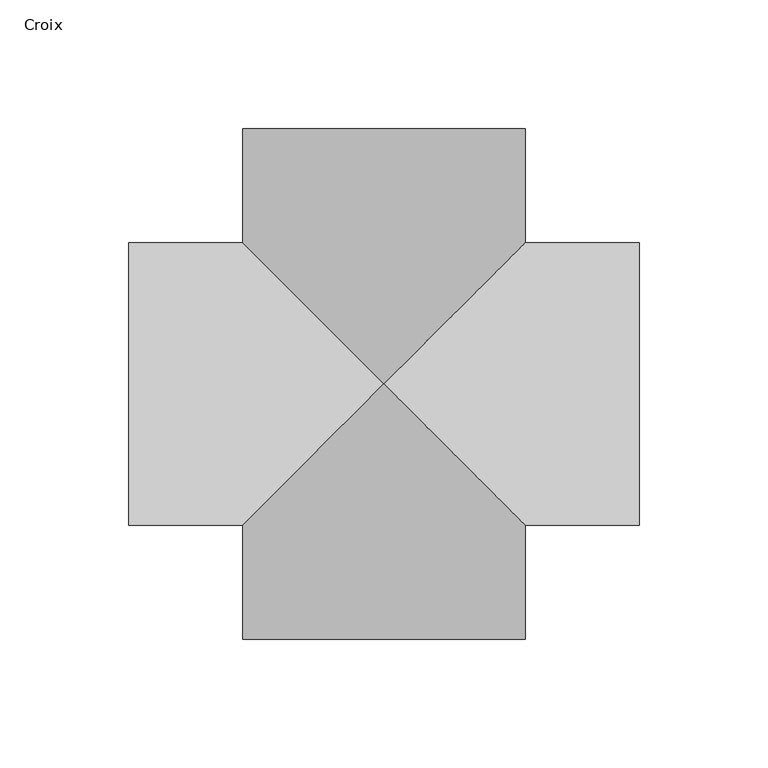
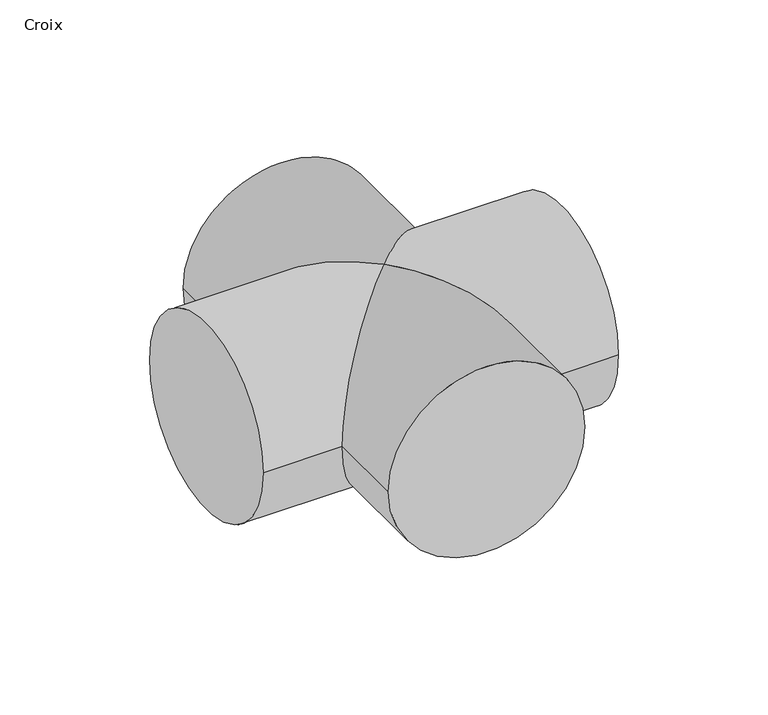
"""IFC4 building model written with IfcOpenShell, lengths in millimetres: pipe fitting geometry, 01051068 : Croix."""

import ifcopenshell
import ifcopenshell.guid

model = None  # the IFC model being written
_history = None  # IfcOwnerHistory: only IFC2X3 demands one
_inside = {}  # id of a spatial element -> (the spatial element, [elements in it])
_under = {}  # id of a project, library or spatial element -> (it, [spatial elements below it])
_declared = {}  # id of a project -> (the project, [libraries it declares])
_typed = {}  # id of a type object -> (the type object, [elements of that type])
_made_of = {}  # id of a material, layer set ... -> (it, [elements and type objects made of it])


def new_model(schema):
    """Start an empty IFC model of exactly this schema.

    Asked for "IFC4X3", IfcOpenShell would pick the latest addendum, in which some entities
    have other attributes; the version numbers below select the first issue.
    IFC2X3 requires an IfcOwnerHistory on every rooted entity: one is made here for all.
    """
    global model, _history
    if schema == "IFC4X3":
        model = ifcopenshell.file(schema_version=(4, 3, 0, 0))
    else:
        model = ifcopenshell.file(schema=schema)
    _inside.clear()
    _under.clear()
    _declared.clear()
    _typed.clear()
    _made_of.clear()
    _history = None
    if model.schema == "IFC2X3":
        org = make("IfcOrganization", Name="unknown")
        user = make(
            "IfcPersonAndOrganization",
            ThePerson=make("IfcPerson", FamilyName="unknown"),
            TheOrganization=org,
        )
        app = make(
            "IfcApplication",
            ApplicationDeveloper=org,
            Version="unknown",
            ApplicationFullName="unknown",
            ApplicationIdentifier="unknown",
        )
        _history = make(
            "IfcOwnerHistory",
            OwningUser=user,
            OwningApplication=app,
            ChangeAction="ADDED",
            CreationDate=0,
        )
    return model


def make(cls, **values):
    """One entity of the class cls with the attributes given. An attribute that is None is left unset."""
    return model.create_entity(
        cls, **{name: value for name, value in values.items() if value is not None}
    )


def rooted(cls, **values):
    """An entity with a GlobalId (a new one), such as an element, a storey or a relation."""
    return make(cls, GlobalId=ifcopenshell.guid.new(), OwnerHistory=_history, **values)


def si_unit(unit_type, name, prefix=None):
    """IfcSIUnit, for example si_unit("LENGTHUNIT", "METRE", prefix="MILLI")."""
    return make("IfcSIUnit", UnitType=unit_type, Prefix=prefix, Name=name)


def assignment(units):
    """IfcUnitAssignment: the units of a project."""
    return None if units is None else make("IfcUnitAssignment", Units=units)


def point(xyz):
    """IfcCartesianPoint."""
    return None if xyz is None else make("IfcCartesianPoint", Coordinates=xyz)


def direction(xyz):
    """IfcDirection."""
    return None if xyz is None else make("IfcDirection", DirectionRatios=xyz)


def frame(location, z_axis=None, x_axis=None):
    """IfcAxis2Placement3D, a coordinate frame: its origin and axes. An axis left out is left unset."""
    return make(
        "IfcAxis2Placement3D",
        Location=point(location),
        Axis=direction(z_axis),
        RefDirection=direction(x_axis),
    )


def origin():
    """The frame at (0, 0, 0) with its axes left unset."""
    return frame((0.0, 0.0, 0.0))


def place(relative_to, where):
    """IfcLocalPlacement: puts the frame where relative to a parent placement (None: the world)."""
    return make(
        "IfcLocalPlacement", PlacementRelTo=relative_to, RelativePlacement=where
    )


def context(
    kind, dimensions, precision=None, world=None, true_north=None, identifier=None
):
    """IfcGeometricRepresentationContext, for example the 3D "Model" context."""
    return make(
        "IfcGeometricRepresentationContext",
        ContextIdentifier=identifier,
        ContextType=kind,
        CoordinateSpaceDimension=dimensions,
        Precision=precision,
        WorldCoordinateSystem=world,
        TrueNorth=true_north,
    )


def project(units=None, contexts=None):
    """IfcProject with its units and contexts."""
    return rooted(
        "IfcProject",
        Name="project",
        RepresentationContexts=contexts,
        UnitsInContext=assignment(units),
    )


def spatial(cls, under=None, at=None, **own):
    """A site, building, storey or space (cls), placed at a placement, below another one or the project."""
    s = rooted(cls, ObjectPlacement=at, **own)
    if under is not None:
        _under.setdefault(under.id(), (under, []))[1].append(s)
    return s


def circle_curve(where, radius):
    """IfcCircle in the frame where."""
    return make("IfcCircle", Position=where, Radius=radius)


def ellipse_curve(where, semi_axis1, semi_axis2):
    """IfcEllipse in the frame where."""
    return make(
        "IfcEllipse", Position=where, SemiAxis1=semi_axis1, SemiAxis2=semi_axis2
    )


def shape(context_of_items, identifier, shape_type, items):
    """IfcShapeRepresentation: the items that make up one representation, for example the "Body"."""
    return make(
        "IfcShapeRepresentation",
        ContextOfItems=context_of_items,
        RepresentationIdentifier=identifier,
        RepresentationType=shape_type,
        Items=items,
    )


def source(mapping_origin, context_of_items, identifier, shape_type, items):
    """IfcRepresentationMap: a shape defined once, which mapped items show again and again."""
    return make(
        "IfcRepresentationMap",
        MappingOrigin=mapping_origin,
        MappedRepresentation=shape(context_of_items, identifier, shape_type, items),
    )


def transform(
    local_origin,
    x_axis=None,
    y_axis=None,
    z_axis=None,
    scale=None,
    scale2=None,
    scale3=None,
    uniform=True,
):
    """IfcCartesianTransformationOperator3D, or its non-uniform kind. x_axis, y_axis, z_axis: its Axis1, 2, 3."""
    if uniform:
        return make(
            "IfcCartesianTransformationOperator3D",
            Axis1=direction(x_axis),
            Axis2=direction(y_axis),
            LocalOrigin=point(local_origin),
            Scale=scale,
            Axis3=direction(z_axis),
        )
    return make(
        "IfcCartesianTransformationOperator3DnonUniform",
        Axis1=direction(x_axis),
        Axis2=direction(y_axis),
        LocalOrigin=point(local_origin),
        Scale=scale,
        Axis3=direction(z_axis),
        Scale2=scale2,
        Scale3=scale3,
    )


def mapped(mapping_source, mapping_target):
    """IfcMappedItem: shows the shape of a source again, moved by a transform."""
    return make(
        "IfcMappedItem", MappingSource=mapping_source, MappingTarget=mapping_target
    )


def made_of(thing, what):
    """Note that an element or type object is made of a material, layer set ...; save() writes the relation."""
    if what is not None:
        _made_of.setdefault(what.id(), (what, []))[1].append(thing)
    return thing


def element(
    cls,
    number,
    at=None,
    inside=None,
    cuts=None,
    type_object=None,
    material=None,
    context=None,
    identifier="Body",
    shape_type=None,
    held_by="IfcProductDefinitionShape",
    body=None,
    shapes=None,
    **own,
):
    """One element of the class cls, such as IfcWall. Its Tag is "e" and its number.

    at: its placement. inside: the storey or other place that contains it. cuts: it is an
    opening in that element (IfcRelVoidsElement). A single representation is given by context,
    identifier, shape_type and body (its items); several are given by shapes. held_by: the class
    of the entity that holds the representations. save() writes the other relations.
    """
    e = rooted(cls, Tag="e%d" % number, ObjectPlacement=at, **own)
    if body is not None:
        shapes = [shape(context, identifier, shape_type, body)]
    if shapes is not None:
        e.Representation = make(held_by, Representations=shapes)
    if inside is not None:
        _inside.setdefault(inside.id(), (inside, []))[1].append(e)
    if cuts is not None:
        rooted(
            "IfcRelVoidsElement", RelatingBuildingElement=cuts, RelatedOpeningElement=e
        )
    if type_object is not None:
        _typed.setdefault(type_object.id(), (type_object, []))[1].append(e)
    return made_of(e, material)


def aggregate(whole, parts):
    """IfcRelAggregates: a whole, such as a stair, and the parts it consists of."""
    return rooted("IfcRelAggregates", RelatingObject=whole, RelatedObjects=parts)


def save(model, path):
    """Write the relations noted so far, then the file.

    IfcRelAggregates (storeys below a building ...), IfcRelContainedInSpatialStructure (elements
    in a storey), IfcRelDefinesByType, IfcRelAssociatesMaterial and IfcRelDeclares: one each for
    every whole, place, type object, material and project.
    """
    for whole, parts in _under.values():
        aggregate(whole, parts)
    for where, things in _inside.values():
        rooted(
            "IfcRelContainedInSpatialStructure",
            RelatedElements=things,
            RelatingStructure=where,
        )
    for kind, things in _typed.values():
        rooted("IfcRelDefinesByType", RelatedObjects=things, RelatingType=kind)
    for what, things in _made_of.values():
        rooted("IfcRelAssociatesMaterial", RelatedObjects=things, RelatingMaterial=what)
    for by, libraries in _declared.values():
        rooted("IfcRelDeclares", RelatingContext=by, RelatedDefinitions=libraries)
    model.write(path)


def plane_surface(at):
    """IfcPlane: the flat surface through the origin of the frame at, square to its z axis."""
    return make("IfcPlane", Position=at)


def cylinder_surface(at, radius):
    """IfcCylindricalSurface: all points at the distance radius from the z axis of the frame at."""
    return make("IfcCylindricalSurface", Position=at, Radius=radius)


def advanced_brep(points, edges, surfaces, faces):
    """IfcAdvancedBrep: a solid bounded by faces that lie on surfaces and meet in shared edges.

    An edge is (start, end): straight between two places in points (the first is 0);
    or (start, end, curve); or (start, end, curve, False) where it runs against its curve.
    A face is (place in surfaces, loops), or (place, loops, False) where it looks against
    its surface's normal. A loop lists edges by number (the first is 1), with a minus sign
    where the edge is run from its end to its start. The first loop is the outer one.
    """
    corners = [point(p) for p in points]
    vertices = [make("IfcVertexPoint", VertexGeometry=c) for c in corners]
    made = []
    for start, end, *more in edges:
        made.append(
            make(
                "IfcEdgeCurve",
                EdgeStart=vertices[start],
                EdgeEnd=vertices[end],
                EdgeGeometry=more[0] if more else make("IfcPolyline", Points=[corners[start], corners[end]]),
                SameSense=more[1] if len(more) > 1 else True,
            )
        )
    hull = []
    for where, loops, *sense in faces:
        bounds = []
        for j, loop in enumerate(loops):
            ring = [make("IfcOrientedEdge", EdgeElement=made[abs(k) - 1], Orientation=k > 0) for k in loop]
            bounds.append(
                make(
                    "IfcFaceOuterBound" if j == 0 else "IfcFaceBound",
                    Bound=make("IfcEdgeLoop", EdgeList=ring),
                    Orientation=True,
                )
            )
        hull.append(make("IfcAdvancedFace", Bounds=bounds, FaceSurface=surfaces[where], SameSense=sense[0] if sense else True))
    return make("IfcAdvancedBrep", Outer=make("IfcClosedShell", CfsFaces=hull))


def croix_105303ef(model_context):
    return source(origin(), model_context, "Body", "AdvancedBrep", [
        advanced_brep(
        [(-54.75, 99.0, 0.0), (54.75, 99.0, 0.0), (-54.75, -99.0, 0.0), (54.75, -99.0, 0.0), (-54.75, 54.75, 0.0), (0.0, 0.0, 54.75), (54.75, 54.75, 0.0), (54.75, -54.75, 0.0), (-54.75, -54.75, 0.0), (0.0, 0.0, -54.75), (99.0, 54.75, 0.0), (99.0, -54.75, 0.0), (-99.0, 54.75, 0.0), (-99.0, -54.75, 0.0)],
        [
            (0, 1, circle_curve(frame((0.0, 99.0, 0.0), z_axis=(0.0, 1.0, 0.0), x_axis=(1.0, 0.0, 0.0)), 54.75)),
            (1, 0, circle_curve(frame((0.0, 99.0, 0.0), z_axis=(0.0, 1.0, 0.0), x_axis=(1.0, 0.0, 0.0)), 54.75)),
            (2, 3, circle_curve(frame((0.0, -99.0, 0.0), z_axis=(0.0, -1.0, 0.0), x_axis=(1.0, 0.0, 0.0)), 54.75)),
            (3, 2, circle_curve(frame((0.0, -99.0, 0.0), z_axis=(0.0, -1.0, 0.0), x_axis=(1.0, 0.0, 0.0)), 54.75)),
            (0, 4),
            (4, 5, ellipse_curve(frame((0.0, 0.0, 0.0), z_axis=(0.7071067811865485, 0.7071067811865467, 0.0), x_axis=(-0.7071067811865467, 0.7071067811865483, 0.0)), 77.4281925, 54.75)),
            (5, 6, ellipse_curve(frame((0.0, 0.0, 0.0), z_axis=(-0.7071067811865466, 0.7071067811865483, 0.0), x_axis=(0.7071067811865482, 0.7071067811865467, 0.0)), 77.4281925, 54.75)),
            (6, 1),
            (3, 7),
            (7, 5, ellipse_curve(frame((0.0, 0.0, 0.0), z_axis=(-0.7071067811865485, -0.7071067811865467, 0.0), x_axis=(-0.7071067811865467, 0.7071067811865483, 0.0)), 77.4281925, 54.75)),
            (5, 8, ellipse_curve(frame((0.0, 0.0, 0.0), z_axis=(0.7071067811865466, -0.7071067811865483, 0.0), x_axis=(0.7071067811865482, 0.7071067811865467, 0.0)), 77.4281925, 54.75)),
            (8, 2),
            (6, 9, ellipse_curve(frame((0.0, 0.0, 0.0), z_axis=(-0.7071067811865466, 0.7071067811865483, 0.0), x_axis=(0.7071067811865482, 0.7071067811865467, 0.0)), 77.4281925, 54.75)),
            (9, 4, ellipse_curve(frame((0.0, 0.0, 0.0), z_axis=(0.7071067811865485, 0.7071067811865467, 0.0), x_axis=(-0.7071067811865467, 0.7071067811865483, 0.0)), 77.4281925, 54.75)),
            (8, 9, ellipse_curve(frame((0.0, 0.0, 0.0), z_axis=(0.7071067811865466, -0.7071067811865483, 0.0), x_axis=(0.7071067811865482, 0.7071067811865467, 0.0)), 77.4281925, 54.75)),
            (9, 7, ellipse_curve(frame((0.0, 0.0, 0.0), z_axis=(-0.7071067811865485, -0.7071067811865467, 0.0), x_axis=(-0.7071067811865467, 0.7071067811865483, 0.0)), 77.4281925, 54.75)),
            (10, 11, circle_curve(frame((99.0, 0.0, 0.0), z_axis=(1.0, 0.0, 0.0), x_axis=(0.0, -1.0, 0.0)), 54.75)),
            (11, 10, circle_curve(frame((99.0, 0.0, 0.0), z_axis=(1.0, 0.0, 0.0), x_axis=(0.0, -1.0, 0.0)), 54.75)),
            (12, 13, circle_curve(frame((-99.0, 0.0, 0.0), z_axis=(-1.0, 0.0, 0.0), x_axis=(0.0, -1.0, 0.0)), 54.75)),
            (13, 12, circle_curve(frame((-99.0, 0.0, 0.0), z_axis=(-1.0, 0.0, 0.0), x_axis=(0.0, -1.0, 0.0)), 54.75)),
            (10, 6),
            (7, 11),
            (13, 8),
            (4, 12),
        ],
        [
            plane_surface(frame((0.0, 99.0, 0.0), z_axis=(0.0, 1.0, 0.0), x_axis=(0.0, 0.0, 1.0))),
            plane_surface(frame((0.0, -99.0, 0.0), z_axis=(0.0, -1.0, 0.0), x_axis=(0.0, 0.0, 1.0))),
            cylinder_surface(frame((0.0, 99.0, 0.0), z_axis=(0.0, 1.0, 0.0), x_axis=(1.0, 0.0, 0.0)), 54.75),
            plane_surface(frame((99.0, 0.0, 0.0), z_axis=(1.0, 0.0, 0.0), x_axis=(0.0, 0.0, 1.0))),
            plane_surface(frame((-99.0, 0.0, 0.0), z_axis=(-1.0, 0.0, 0.0), x_axis=(0.0, 0.0, 1.0))),
            cylinder_surface(frame((99.0, 0.0, 0.0), z_axis=(1.0, 0.0, 0.0), x_axis=(0.0, -1.0, 0.0)), 54.75),
        ],
        [
            (0, [[1, 2]]),
            (1, [[3, 4]]),
            (2, [[-1, 5, 6, 7, 8]]),
            (2, [[-4, 9, 10, 11, 12]]),
            (2, [[-2, -8, 13, 14, -5]]),
            (2, [[-3, -12, 15, 16, -9]]),
            (3, [[17, 18]]),
            (4, [[19, 20]]),
            (5, [[-17, 21, -7, -10, 22]]),
            (5, [[-20, 23, -11, -6, 24]]),
            (5, [[-18, -22, -16, -13, -21]]),
            (5, [[-19, -24, -14, -15, -23]]),
        ],
    ),
    ])


if __name__ == "__main__":
    model = new_model("IFC4")
    model_context = context("Model", 3, world=origin())
    ifc_project = project(units=[si_unit("LENGTHUNIT", "METRE", prefix="MILLI")], contexts=[model_context])
    site = spatial("IfcSite", under=ifc_project)
    building = spatial("IfcBuilding", under=site)
    placement = place(None, origin())
    croix_shape = croix_105303ef(model_context)
    element("IfcPipeFitting", 1, ObjectType="01051068 : Croix", at=placement, inside=building, context=model_context, shape_type="MappedRepresentation", body=[
        mapped(croix_shape, transform((0.0, 0.0, 0.0), x_axis=(1.0, 0.0, 0.0), y_axis=(0.0, 1.0, 0.0), z_axis=(0.0, 0.0, 1.0))),
    ])
    save(model, "model.ifc")
